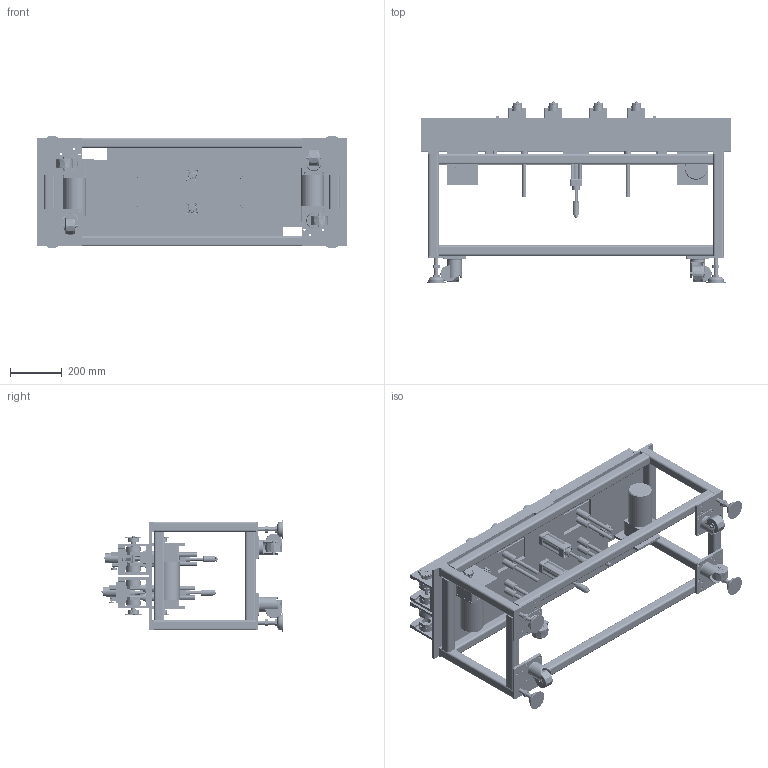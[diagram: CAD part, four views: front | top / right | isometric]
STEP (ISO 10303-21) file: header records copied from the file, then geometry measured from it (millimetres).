
FILE_DESCRIPTION(/* description */ (''),/* implementation_level */ '2;1');
FILE_NAME(/* name */ 'beltconveyor_a148_w80_l1200.stp',/* time_stamp */ '2025-01-20T21:18:53+08:00',/* author */ (''),/* organization */ (''),/* preprocessor_version */ 'ST-DEVELOPER v16.7',/* originating_system */ 'SIEMENS PLM Software NX 12.0',/* authorisation */ '');
FILE_SCHEMA (('AUTOMOTIVE_DESIGN { 1 0 10303 214 3 1 1 1 }'));
Products named in the file (75): 60071治具护卫块; 零件C905060019; 马达缓冲拉轮; 006-011马达缓冲弹簧压块_預設_
1_1; 006-007马达缓冲定位针_1_1; 马达治具60071; 006-010马达缓冲杆_1_1; 3D-DNL32x50_預設; 3D-DNL32x50-_預設; FJB10part2_預設; FJB10part7_預設; FJB10part5_預設; CHJFS65Abody_預設; CHJFS65Abearing_預設; CHJFS65Aswivel_預設; CHJFS65Aseal_預設; CHJFS65Awheel_預設; NFJN16nut_預設; NFJNF16_80pad_預設; 导套; 马达治具座调节座_1; 滑PIN_1; 把手; 马达焊接治具安装板60071; Lift board AL6061_預設; MISUMI-BPFA10_BPFA10; fix column S45C_預設; Cylinder board Q235_預設; Guide pole SUJ2_預設; MISUMI-LHFCW_MX16_LHFCW-MX16; leg plate_預設; TWH-S-25x15-L F-1-P_fp_HI; TWH-25_HI; CS1-G_HI; TWH-S-25x15-L F-1-G _c_HI; Prevent cylinder board2 Q235_預設; 254_HI; TWH-S-25x15-L F-1-P_r_HI; TWH_S25_HI; TWH25M4x0_7_HI ...
Assembly tree (157 placements, depth 4):
  beltconveyor_a148_w80_l1200
    MISUMI-SP40B14_N_12_SP40B14-N-12  x2
    Large support board Q235_預設  x2
    Guide board MC nylon_預設  x4
    passive rotate S45C_預設  x4
    Airtac-TWH-S-25x15-L F-1-G-2 (0)_HI  x2
      Prevent cylinder board Q235_預設
      TWH25M4x0_7_HI
      TWH_S25_HI
      TWH-S-25x15-L F-1-P_r_HI
      254_HI
      Prevent cylinder board2 Q235_預設
      TWH-S-25x15-L F-1-G _c_HI
      CS1-G_HI
      TWH-25_HI
      TWH-S-25x15-L F-1-P_fp_HI
    connect board  AL6061_預設  x4
    Base Leg Support_預設  x4
      NFJNF16_80_MISUMI_NFJNF16-80
        NFJNF16_80pad_預設
        NFJN16nut_預設
      CHJFS65A_MISUMI_CHJFS65A
        CHJFS65Awheel_預設
        CHJFS65Aseal_預設
        CHJFS65Aswivel_預設
        CHJFS65Abearing_預設
        CHJFS65Abody_預設
      leg plate_預設
    MISUMI-B6202Z_B6202Z  x6
    Stand mechanism_預設75381
      MISUMI-LHFCW_MX16_LHFCW-MX16  x4
      MISUMI-FJB10_FJB10
        FJB10part5_預設
        FJB10part7_預設
        FJB10part2_預設
      Guide pole SUJ2_預設  x4
      Cylinder board Q235_預設
      fix column S45C_預設  x4
      MISUMI-BPFA10_BPFA10
      Lift board AL6061_預設
      CHELIC-DNL32x50_預設30787
        3D-DNL32x50-_預設
        3D-DNL32x50_預設
    Bear support3 Q235_預設  x4
    initiative rotate  S45C_預設  x4
    Stand wall2 Q235_預設
    Stand wall Q235_預設
    Axle S45C_預設  x2
    006組合件冶具_預設_1_1_hi
de some components  x2
      马达焊接治具安装板60071
      把手
      滑PIN_1
      马达治具座调节座_1
      006-A马达冶具组装_1_1
        006-010马达缓冲杆_1_1
        马达治具60071
        006-007马达缓冲定位针_1_1  x2
        006-011马达缓冲弹簧压块_預設_
1_1
        马达缓冲拉轮
        零件C905060019
Bounding box: 1198.42 x 702.65 x 435 mm (x, y, z)
Volume: 28532549.7 mm3; surface area: 7810291.6 mm2
Topology: 328 solids, 348 shells, 10070 faces, 24112 edges, 15346 vertices
Faces by surface type: plane 4113, cylinder 3862, cone 1146, torus 468, extrusion 369, sphere 60, bspline 52
Entity records: 123358 total; most frequent: CARTESIAN_POINT 29635, ORIENTED_EDGE 18298, DIRECTION 18165, EDGE_CURVE 9149, AXIS2_PLACEMENT_3D 6645, VERTEX_POINT 5870, VECTOR 4875, LINE 4506
